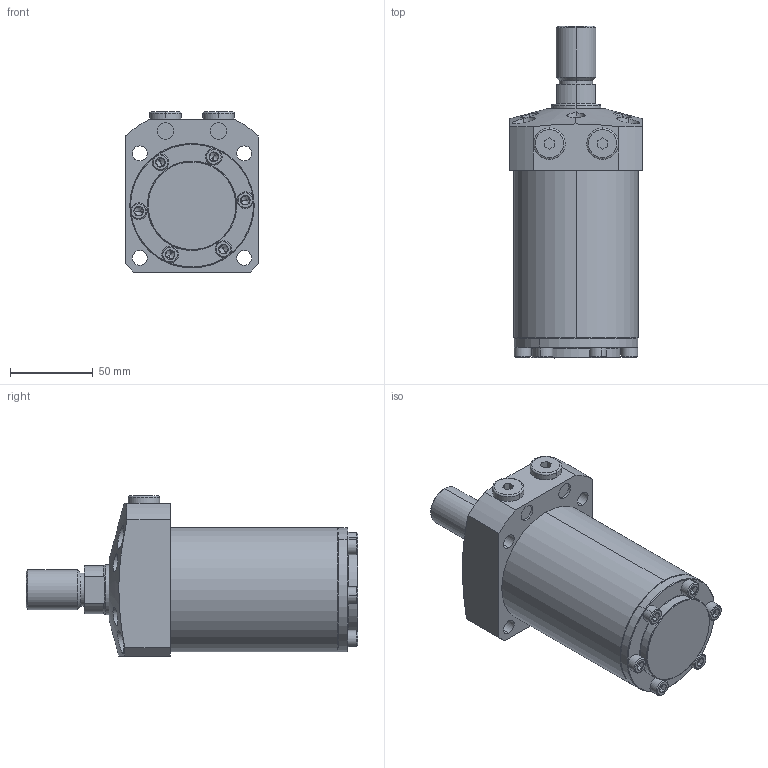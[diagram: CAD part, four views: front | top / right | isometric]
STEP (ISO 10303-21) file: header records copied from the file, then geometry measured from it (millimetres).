
FILE_DESCRIPTION (( 'STEP AP203' ), '1' );
FILE_NAME ('680750-CT-076.step', '2016-11-02T03:27:45', ( 'wxp' ), ( '' ), 'SwSTEP 2.0', 'SolidWorks 2011', '' );
FILE_SCHEMA (( 'CONFIG_CONTROL_DESIGN' ));
Length unit declared in the file: millimetre
Products named in the file (7): 680750-CT-076; 葩璃 680750-CA-15-11^680750-CT-076; 葩璃 68075-CA-76-6^680750-CT-076; 葩璃 68075-CA-76-5^680750-CT-076; 葩璃 68075-CA-76-4^680750-CT-076; 葩璃 68075-CA-76-3^680750-CT-076; 葩璃 68075-CA-76-1^680750-CT-076
Assembly tree (17 placements, depth 2):
  680750-CT-076
    葩璃 68075-CA-76-4^680750-CT-076  x6
    葩璃 68075-CA-76-6^680750-CT-076  x2
    葩璃 68075-CA-76-1^680750-CT-076
    葩璃 68075-CA-76-5^680750-CT-076  x6
    葩璃 68075-CA-76-3^680750-CT-076
    葩璃 680750-CA-15-11^680750-CT-076
Bounding box: 80 x 200 x 96.5 mm (x, y, z)
Volume: 742772.5 mm3; surface area: 98818.9 mm2
Topology: 17 solids, 17 shells, 548 faces, 1034 edges, 541 vertices
Faces by surface type: plane 235, cone 168, cylinder 129, torus 16
Entity records: 7603 total; most frequent: CARTESIAN_POINT 1930, DIRECTION 1071, ORIENTED_EDGE 872, AXIS2_PLACEMENT_3D 447, EDGE_CURVE 436, VERTEX_POINT 259, EDGE_LOOP 255, CIRCLE 215
